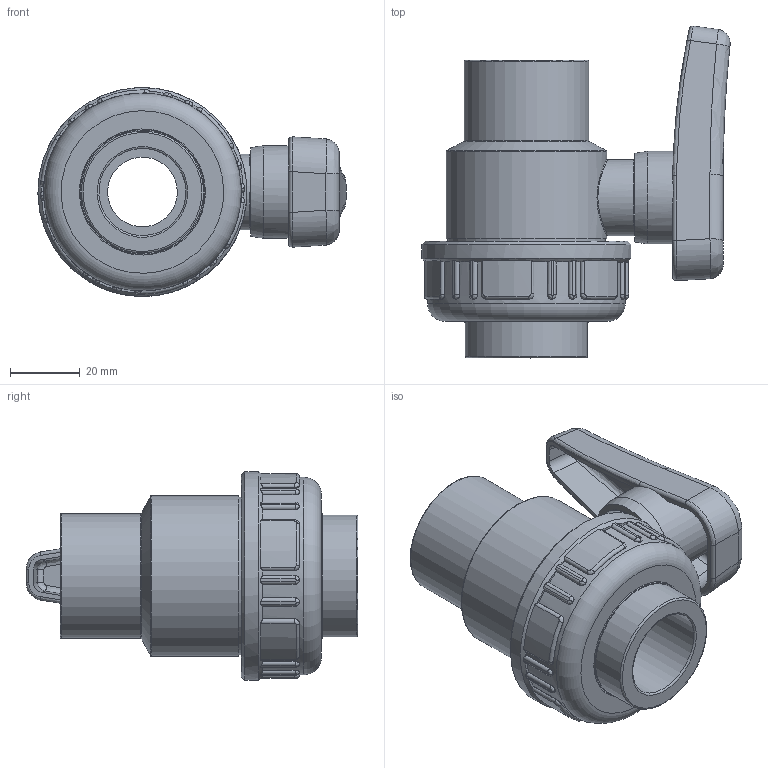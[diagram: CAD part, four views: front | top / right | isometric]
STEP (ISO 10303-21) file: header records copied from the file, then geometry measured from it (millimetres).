
FILE_DESCRIPTION(/* description */ (''),/* implementation_level */ '2;1');
FILE_NAME(/* name */ 'C:\Users\POLYPIPE\Desktop\DATASET INVENTOR\LIBRERIA EFFAST\3D_VALVOLE\3D_VALVOLE A SFERA\3D_SV\3D_BDRSVD\3D_BDRSVD0250.stp',/* time_stamp */ '2018-01-23T16:30:31+01:00',/* author */ ('POLYPIPE'),/* organization */ (''),/* preprocessor_version */ 'ST-DEVELOPER v16.1',/* originating_system */ 'Autodesk Inventor 2016',/* authorisation */ '');
FILE_SCHEMA (('CONFIG_CONTROL_DESIGN'));
Length unit declared in the file: centimetre
Products named in the file (1): 3D_BDRSVD0250
Bounding box: 88.46 x 95.27 x 59.98 mm (x, y, z)
Volume: 119433.2 mm3; surface area: 40597.8 mm2
Topology: 1 solids, 1 shells, 350 faces, 887 edges, 546 vertices
Faces by surface type: cylinder 113, plane 105, bspline 99, torus 22, sphere 7, cone 4
Full cylindrical faces by diameter (mm): 13.9 x1, 20 x1, 20.2 x1, 21.8 x1, 25 x2, 26.6 x1, 35.1 x1, 35.7 x1, 35.8 x1, 36.2 x1, 42.75 x1, 45.15 x1, 46.15 x1, 48.3 x1, 56.7 x1, 60 x1
Entity records: 33505 total; most frequent: CARTESIAN_POINT 25302, ORIENTED_EDGE 1700, DIRECTION 1485, EDGE_CURVE 850, AXIS2_PLACEMENT_3D 588, VERTEX_POINT 539, EDGE_LOOP 395, STYLED_ITEM 351
